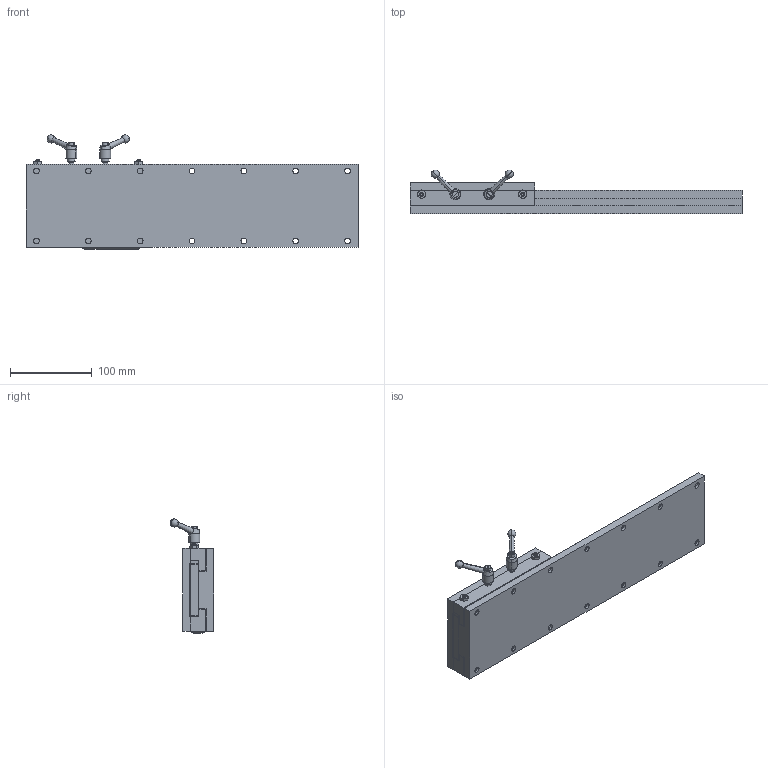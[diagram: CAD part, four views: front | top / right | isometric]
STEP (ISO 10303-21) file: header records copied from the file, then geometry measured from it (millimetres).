
FILE_DESCRIPTION (( 'STEP AP214' ), '1' );
FILE_NAME ('SW04-SL06-BL16-LH.STEP', '2011-06-16T19:25:50', ( '' ), ( '' ), 'SwSTEP 2.0', 'SolidWorks 2011', '' );
FILE_SCHEMA (( 'AUTOMOTIVE_DESIGN' ));
Length unit declared in the file: inch
Products named in the file (13): KHB_56; _MSHXNUT_MSHXNUT 0.190-32-D-N; _SSCUPSOC_SSCUPSKT 0.19-32x0.875-HX-N; Tag; Gen2 Bar_04x06 BAR; Gen2 Adj Gib_04x06 ADJ GIB; Gen2 Gib_04x06 GIB; Gen2 Top plate_04x06 TPLATE; Gen2 BASE_04x16 BASE; Gen2 Hardplate_04x16 HPLATE; Gen2 Baseplate_04x16 BASE; SW04-SL06-BL16-LH; Gen2 SADDLE_04x06 SADDLE with LOCK HANDLES
Assembly tree (15 placements, depth 3):
  SW04-SL06-BL16-LH
    Gen2 BASE_04x16 BASE
      Gen2 Hardplate_04x16 HPLATE
      Gen2 Baseplate_04x16 BASE
    Gen2 SADDLE_04x06 SADDLE with LOCK HANDLES
      KHB_56  x2
      Gen2 Adj Gib_04x06 ADJ GIB
      _MSHXNUT_MSHXNUT 0.190-32-D-N  x2
      Gen2 Top plate_04x06 TPLATE
      Gen2 Gib_04x06 GIB
      _SSCUPSOC_SSCUPSKT 0.19-32x0.875-HX-N  x2
      Tag
      Gen2 Bar_04x06 BAR
Bounding box: 406.4 x 53.43 x 139.75 mm (x, y, z)
Volume: 1092435.1 mm3; surface area: 276182.7 mm2
Topology: 18 solids, 18 shells, 336 faces, 762 edges, 476 vertices
Faces by surface type: plane 148, cylinder 112, cone 68, sphere 4, bspline 4
Entity records: 9115 total; most frequent: CARTESIAN_POINT 2228, DIRECTION 1318, ORIENTED_EDGE 1172, EDGE_CURVE 586, AXIS2_PLACEMENT_3D 497, VERTEX_POINT 377, EDGE_LOOP 329, LINE 324
